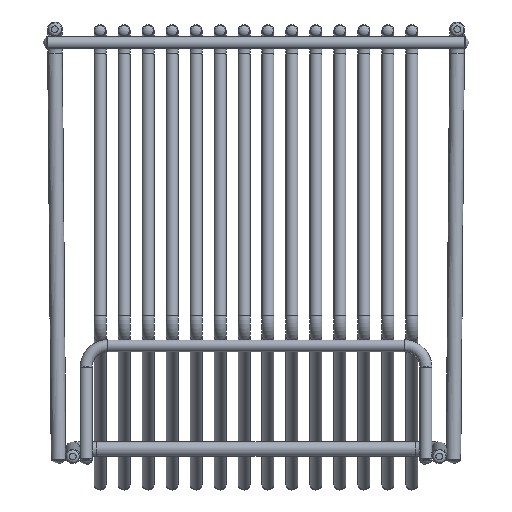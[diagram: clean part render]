
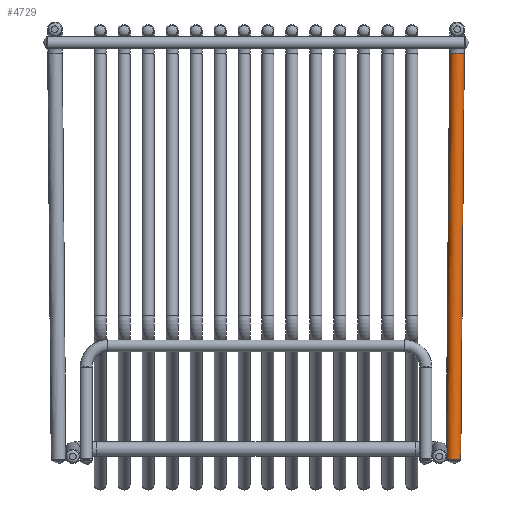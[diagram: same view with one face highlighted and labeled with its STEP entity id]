
A CAD part, front view. The second image highlights one B-rep face of the part: STEP entity #4729.
In plain terms, the highlighted cylindrical face has radius 11 mm (diameter 22 mm), a full revolution.
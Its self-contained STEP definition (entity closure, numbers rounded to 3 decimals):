
#4729=ADVANCED_FACE('',(#5591,#5592),#5593,.T.);
#5591=FACE_OUTER_BOUND('',#6628,.T.);
#5592=FACE_OUTER_BOUND('',#6629,.T.);
#5593=CYLINDRICAL_SURFACE('',#6630,11.0);
#6628=EDGE_LOOP('',(#8226));
#6629=EDGE_LOOP('',(#8227));
#6630=AXIS2_PLACEMENT_3D('',#8228,#8229,#8230);
#8226=ORIENTED_EDGE('',*,*,#8777,.T.);
#8227=ORIENTED_EDGE('',*,*,#8772,.T.);
#8228=CARTESIAN_POINT('',(598.505,596.477,-47.009));
#8229=DIRECTION('',(-0.009,0.,-1.));
#8230=DIRECTION('',(0.,1.0,0.));
#8772=EDGE_CURVE('',#9334,#9334,#9335,.T.);
#8777=EDGE_CURVE('',#9344,#9344,#9345,.T.);
#9334=VERTEX_POINT('',#9954);
#9335=CIRCLE('',#9955,11.0);
#9344=VERTEX_POINT('',#9964);
#9345=CIRCLE('',#9965,11.0);
#9954=CARTESIAN_POINT('',(604.19,596.477,-656.06));
#9955=AXIS2_PLACEMENT_3D('',#10826,#10827,#10828);
#9964=CARTESIAN_POINT('',(587.505,596.477,-46.913));
#9965=AXIS2_PLACEMENT_3D('',#10841,#10842,#10843);
#10826=CARTESIAN_POINT('',(593.19,596.477,-655.964));
#10827=DIRECTION('',(0.009,0.,1.));
#10828=DIRECTION('',(1.,0.0,-0.009));
#10841=CARTESIAN_POINT('',(598.505,596.477,-47.009));
#10842=DIRECTION('',(-0.009,0.0,-1.));
#10843=DIRECTION('',(-1.,0.0,0.009));
